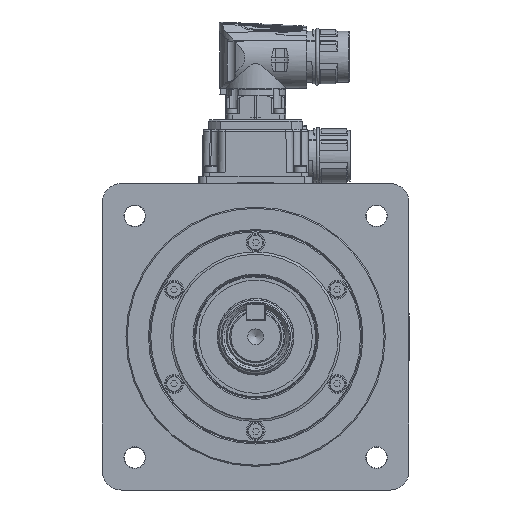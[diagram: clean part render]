
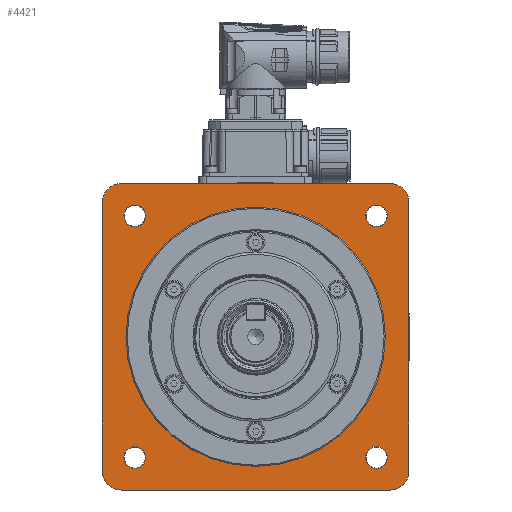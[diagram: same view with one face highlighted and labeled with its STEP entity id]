
A CAD part, front view. The second image highlights one B-rep face of the part: STEP entity #4421.
In plain terms, the highlighted planar face has unit normal (0, -1, 0).
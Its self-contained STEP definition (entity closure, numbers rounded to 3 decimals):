
#4421 = ADVANCED_FACE( '', ( #10761, #10762, #10763, #10764, #10765, #10766 ), #10767, .F. );
#10761 = FACE_BOUND( '', #23852, .T. );
#10762 = FACE_OUTER_BOUND( '', #23853, .T. );
#10763 = FACE_BOUND( '', #23854, .T. );
#10764 = FACE_BOUND( '', #23855, .T. );
#10765 = FACE_BOUND( '', #23856, .T. );
#10766 = FACE_BOUND( '', #23857, .T. );
#10767 = PLANE( '', #23858 );
#23852 = EDGE_LOOP( '', ( #44037 ) );
#23853 = EDGE_LOOP( '', ( #44038, #44039, #44040, #44041, #44042, #44043, #44044, #44045 ) );
#23854 = EDGE_LOOP( '', ( #44046 ) );
#23855 = EDGE_LOOP( '', ( #44047 ) );
#23856 = EDGE_LOOP( '', ( #44048 ) );
#23857 = EDGE_LOOP( '', ( #44049 ) );
#23858 = AXIS2_PLACEMENT_3D( '', #44050, #44051, #44052 );
#44037 = ORIENTED_EDGE( '', *, *, #60812, .F. );
#44038 = ORIENTED_EDGE( '', *, *, #62049, .F. );
#44039 = ORIENTED_EDGE( '', *, *, #62050, .T. );
#44040 = ORIENTED_EDGE( '', *, *, #62051, .F. );
#44041 = ORIENTED_EDGE( '', *, *, #62052, .T. );
#44042 = ORIENTED_EDGE( '', *, *, #61722, .F. );
#44043 = ORIENTED_EDGE( '', *, *, #62053, .T. );
#44044 = ORIENTED_EDGE( '', *, *, #62054, .F. );
#44045 = ORIENTED_EDGE( '', *, *, #62055, .T. );
#44046 = ORIENTED_EDGE( '', *, *, #61333, .F. );
#44047 = ORIENTED_EDGE( '', *, *, #61966, .F. );
#44048 = ORIENTED_EDGE( '', *, *, #61799, .F. );
#44049 = ORIENTED_EDGE( '', *, *, #58309, .F. );
#44050 = CARTESIAN_POINT( '', ( 0., -39.51, 55. ) );
#44051 = DIRECTION( '', ( 0., 1., 0. ) );
#44052 = DIRECTION( '', ( 0., 0., 1. ) );
#58309 = EDGE_CURVE( '', #68148, #68148, #68149, .F. );
#60812 = EDGE_CURVE( '', #72371, #72371, #72372, .T. );
#61333 = EDGE_CURVE( '', #73192, #73192, #73193, .F. );
#61722 = EDGE_CURVE( '', #73773, #73775, #73776, .F. );
#61799 = EDGE_CURVE( '', #73884, #73884, #73885, .F. );
#61966 = EDGE_CURVE( '', #74133, #74133, #74134, .F. );
#62049 = EDGE_CURVE( '', #74247, #74248, #74249, .F. );
#62050 = EDGE_CURVE( '', #74247, #74250, #74251, .T. );
#62051 = EDGE_CURVE( '', #74252, #74250, #74253, .F. );
#62052 = EDGE_CURVE( '', #74252, #73775, #74254, .T. );
#62053 = EDGE_CURVE( '', #73773, #74255, #74256, .T. );
#62054 = EDGE_CURVE( '', #74257, #74255, #74258, .F. );
#62055 = EDGE_CURVE( '', #74257, #74248, #74259, .T. );
#68148 = VERTEX_POINT( '', #82819 );
#68149 = CIRCLE( '', #82820, 4.6 );
#72371 = VERTEX_POINT( '', #92075 );
#72372 = CIRCLE( '', #92076, 55. );
#73192 = VERTEX_POINT( '', #94222 );
#73193 = CIRCLE( '', #94223, 4.6 );
#73773 = VERTEX_POINT( '', #95767 );
#73775 = VERTEX_POINT( '', #95770 );
#73776 = CIRCLE( '', #95771, 8. );
#73884 = VERTEX_POINT( '', #95977 );
#73885 = CIRCLE( '', #95978, 4.6 );
#74133 = VERTEX_POINT( '', #96494 );
#74134 = CIRCLE( '', #96495, 4.6 );
#74247 = VERTEX_POINT( '', #96766 );
#74248 = VERTEX_POINT( '', #96767 );
#74249 = CIRCLE( '', #96768, 8. );
#74250 = VERTEX_POINT( '', #96769 );
#74251 = LINE( '', #96770, #96771 );
#74252 = VERTEX_POINT( '', #96772 );
#74253 = CIRCLE( '', #96773, 8. );
#74254 = LINE( '', #96774, #96775 );
#74255 = VERTEX_POINT( '', #96776 );
#74256 = LINE( '', #96777, #96778 );
#74257 = VERTEX_POINT( '', #96779 );
#74258 = CIRCLE( '', #96780, 8. );
#74259 = LINE( '', #96781, #96782 );
#82819 = CARTESIAN_POINT( '', ( 51.265, -39.51, 55.866 ) );
#82820 = AXIS2_PLACEMENT_3D( '', #110556, #110557, #110558 );
#92075 = CARTESIAN_POINT( '', ( 0., -39.51, -55. ) );
#92076 = AXIS2_PLACEMENT_3D( '', #113638, #113639, #113640 );
#94222 = CARTESIAN_POINT( '', ( -51.265, -39.51, 55.866 ) );
#94223 = AXIS2_PLACEMENT_3D( '', #114232, #114233, #114234 );
#95767 = CARTESIAN_POINT( '', ( 65., -39.51, -57. ) );
#95770 = CARTESIAN_POINT( '', ( 57., -39.51, -65. ) );
#95771 = AXIS2_PLACEMENT_3D( '', #114665, #114666, #114667 );
#95977 = CARTESIAN_POINT( '', ( 51.265, -39.51, -46.665 ) );
#95978 = AXIS2_PLACEMENT_3D( '', #114751, #114752, #114753 );
#96494 = CARTESIAN_POINT( '', ( -51.265, -39.51, -46.665 ) );
#96495 = AXIS2_PLACEMENT_3D( '', #114949, #114950, #114951 );
#96766 = CARTESIAN_POINT( '', ( -65., -39.51, 57. ) );
#96767 = CARTESIAN_POINT( '', ( -57., -39.51, 65. ) );
#96768 = AXIS2_PLACEMENT_3D( '', #115039, #115040, #115041 );
#96769 = CARTESIAN_POINT( '', ( -65., -39.51, -57. ) );
#96770 = CARTESIAN_POINT( '', ( -65., -39.51, 65. ) );
#96771 = VECTOR( '', #115042, 1000. );
#96772 = CARTESIAN_POINT( '', ( -57., -39.51, -65. ) );
#96773 = AXIS2_PLACEMENT_3D( '', #115043, #115044, #115045 );
#96774 = CARTESIAN_POINT( '', ( -65., -39.51, -65. ) );
#96775 = VECTOR( '', #115046, 1000. );
#96776 = CARTESIAN_POINT( '', ( 65., -39.51, 57. ) );
#96777 = CARTESIAN_POINT( '', ( 65., -39.51, -65. ) );
#96778 = VECTOR( '', #115047, 1000. );
#96779 = CARTESIAN_POINT( '', ( 57., -39.51, 65. ) );
#96780 = AXIS2_PLACEMENT_3D( '', #115048, #115049, #115050 );
#96781 = CARTESIAN_POINT( '', ( 65., -39.51, 65. ) );
#96782 = VECTOR( '', #115051, 1000. );
#110556 = CARTESIAN_POINT( '', ( 51.265, -39.51, 51.265 ) );
#110557 = DIRECTION( '', ( 0., 1., 0. ) );
#110558 = DIRECTION( '', ( 0., 0., 1. ) );
#113638 = CARTESIAN_POINT( '', ( 0., -39.51, 0. ) );
#113639 = DIRECTION( '', ( 0., -1., 0. ) );
#113640 = DIRECTION( '', ( 0., 0., -1. ) );
#114232 = CARTESIAN_POINT( '', ( -51.265, -39.51, 51.265 ) );
#114233 = DIRECTION( '', ( 0., 1., 0. ) );
#114234 = DIRECTION( '', ( 0., 0., 1. ) );
#114665 = CARTESIAN_POINT( '', ( 57., -39.51, -57. ) );
#114666 = DIRECTION( '', ( 0., -1., 0. ) );
#114667 = DIRECTION( '', ( 0., 0., -1. ) );
#114751 = CARTESIAN_POINT( '', ( 51.265, -39.51, -51.265 ) );
#114752 = DIRECTION( '', ( 0., 1., 0. ) );
#114753 = DIRECTION( '', ( 0., 0., 1. ) );
#114949 = CARTESIAN_POINT( '', ( -51.265, -39.51, -51.265 ) );
#114950 = DIRECTION( '', ( 0., 1., 0. ) );
#114951 = DIRECTION( '', ( 0., 0., 1. ) );
#115039 = CARTESIAN_POINT( '', ( -57., -39.51, 57. ) );
#115040 = DIRECTION( '', ( 0., -1., 0. ) );
#115041 = DIRECTION( '', ( 0., 0., -1. ) );
#115042 = DIRECTION( '', ( 0., 0., -1. ) );
#115043 = CARTESIAN_POINT( '', ( -57., -39.51, -57. ) );
#115044 = DIRECTION( '', ( 0., -1., 0. ) );
#115045 = DIRECTION( '', ( 0., 0., -1. ) );
#115046 = DIRECTION( '', ( 1., 0., 0. ) );
#115047 = DIRECTION( '', ( 0., 0., 1. ) );
#115048 = CARTESIAN_POINT( '', ( 57., -39.51, 57. ) );
#115049 = DIRECTION( '', ( 0., -1., 0. ) );
#115050 = DIRECTION( '', ( 0., 0., -1. ) );
#115051 = DIRECTION( '', ( -1., 0., 0. ) );
